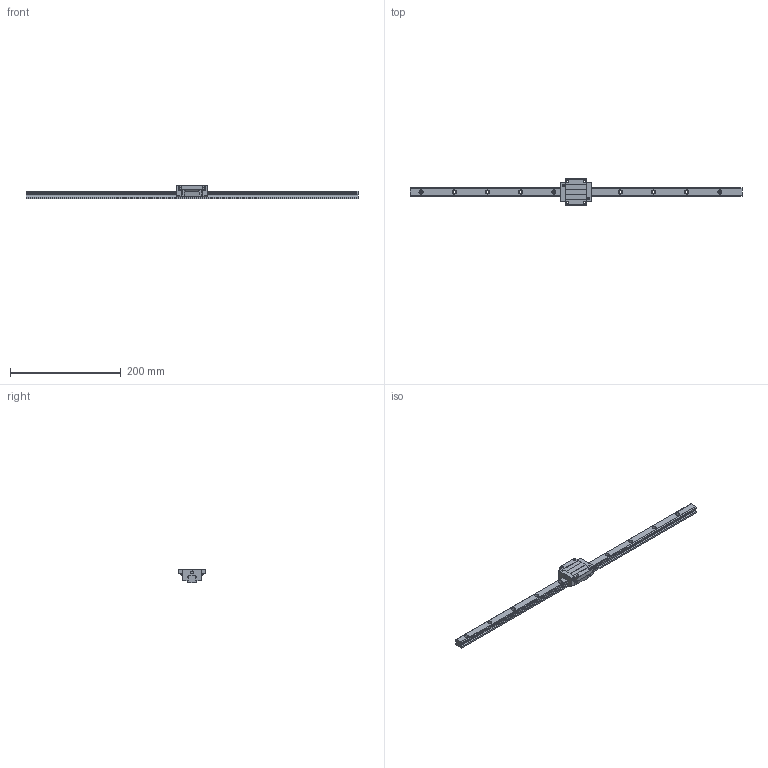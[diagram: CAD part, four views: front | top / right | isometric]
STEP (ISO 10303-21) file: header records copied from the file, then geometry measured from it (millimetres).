
FILE_DESCRIPTION (( 'STEP AP203' ), '1' );
FILE_NAME ('TRH15FN-XNC.STEP', '2026-02-12T07:31:13', ( '' ), ( '' ), 'SwSTEP 2.0', 'SolidWorks 2022', '' );
FILE_SCHEMA (( 'CONFIG_CONTROL_DESIGN' ));
Length unit declared in the file: millimetre
Products named in the file (1): TRH15FN-XNC
Bounding box: 600 x 47 x 24 mm (x, y, z)
Volume: 135136.9 mm3; surface area: 46252.7 mm2
Topology: 1 solids, 1 shells, 355 faces, 966 edges, 634 vertices
Faces by surface type: plane 187, cylinder 116, bspline 48, sphere 4
Entity records: 14343 total; most frequent: CARTESIAN_POINT 5428, ORIENTED_EDGE 1924, DIRECTION 1684, EDGE_CURVE 962, VERTEX_POINT 634, LINE 616, VECTOR 616, AXIS2_PLACEMENT_3D 534
